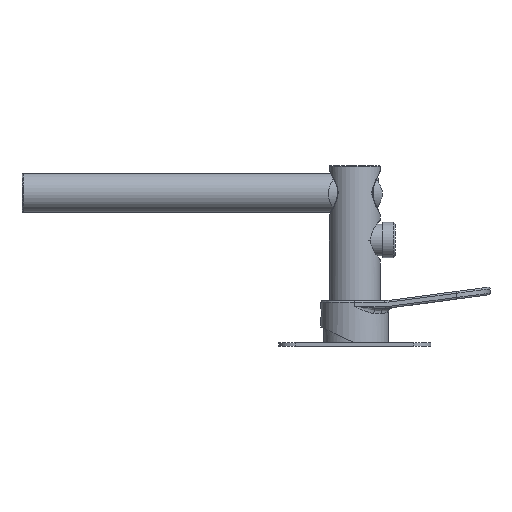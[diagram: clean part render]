
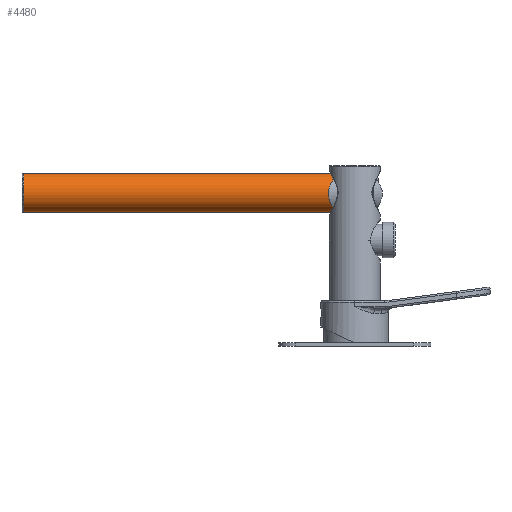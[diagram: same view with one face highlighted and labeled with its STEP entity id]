
A CAD part, left-side view. The second image highlights one B-rep face of the part: STEP entity #4480.
In plain terms, the highlighted cylindrical face has radius 11.5 mm (diameter 23 mm), a partial arc.
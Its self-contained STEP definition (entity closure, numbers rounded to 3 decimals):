
#54 = AXIS2_PLACEMENT_3D ( 'NONE', #17821, #7502, #2881 ) ;
#745 = CIRCLE ( 'NONE', #7632, 11.5 ) ;
#754 = DIRECTION ( 'NONE',  ( 0., -1., 0. ) ) ;
#1008 = DIRECTION ( 'NONE',  ( 0.058, 0., 0.998 ) ) ;
#1902 = CARTESIAN_POINT ( 'NONE',  ( 279.827, 194.884, 79.22 ) ) ;
#2301 = EDGE_CURVE ( 'NONE', #14059, #14332, #4232, .T. ) ;
#2365 = DIRECTION ( 'NONE',  ( 0., 1., 0. ) ) ;
#2602 = ORIENTED_EDGE ( 'NONE', *, *, #11184, .F. ) ;
#2685 = CYLINDRICAL_SURFACE ( 'NONE', #54, 11.5 ) ;
#2881 = DIRECTION ( 'NONE',  ( 0.058, 0., 0.998 ) ) ;
#3562 = CARTESIAN_POINT ( 'NONE',  ( 279.827, 240.884, 79.22 ) ) ;
#4066 = VERTEX_POINT ( 'NONE', #3562 ) ;
#4232 = LINE ( 'NONE', #8752, #7615 ) ;
#4480 = ADVANCED_FACE ( 'NONE', ( #6007 ), #2685, .T. ) ;
#4753 = LINE ( 'NONE', #1902, #10722 ) ;
#4825 = CARTESIAN_POINT ( 'NONE',  ( 281.173, 57.384, 102.18 ) ) ;
#6007 = FACE_OUTER_BOUND ( 'NONE', #16907, .T. ) ;
#7502 = DIRECTION ( 'NONE',  ( 0., 1., 0. ) ) ;
#7525 = VERTEX_POINT ( 'NONE', #12045 ) ;
#7615 = VECTOR ( 'NONE', #11881, 1000. ) ;
#7632 = AXIS2_PLACEMENT_3D ( 'NONE', #11434, #754, #14138 ) ;
#7768 = ORIENTED_EDGE ( 'NONE', *, *, #16098, .T. ) ;
#8427 = CARTESIAN_POINT ( 'NONE',  ( 281.173, 240.884, 102.18 ) ) ;
#8752 = CARTESIAN_POINT ( 'NONE',  ( 281.173, 194.884, 102.18 ) ) ;
#10722 = VECTOR ( 'NONE', #15183, 1000. ) ;
#11184 = EDGE_CURVE ( 'NONE', #7525, #4066, #4753, .T. ) ;
#11434 = CARTESIAN_POINT ( 'NONE',  ( 280.5, 240.884, 90.7 ) ) ;
#11881 = DIRECTION ( 'NONE',  ( 0., 1., 0. ) ) ;
#12045 = CARTESIAN_POINT ( 'NONE',  ( 279.827, 57.384, 79.22 ) ) ;
#12178 = CIRCLE ( 'NONE', #17710, 11.5 ) ;
#12201 = ORIENTED_EDGE ( 'NONE', *, *, #2301, .T. ) ;
#12915 = EDGE_CURVE ( 'NONE', #14332, #4066, #745, .T. ) ;
#14059 = VERTEX_POINT ( 'NONE', #4825 ) ;
#14138 = DIRECTION ( 'NONE',  ( 0.058, 0., 0.998 ) ) ;
#14322 = ORIENTED_EDGE ( 'NONE', *, *, #12915, .T. ) ;
#14332 = VERTEX_POINT ( 'NONE', #8427 ) ;
#15183 = DIRECTION ( 'NONE',  ( 0., 1., 0. ) ) ;
#15723 = CARTESIAN_POINT ( 'NONE',  ( 280.5, 57.384, 90.7 ) ) ;
#16098 = EDGE_CURVE ( 'NONE', #7525, #14059, #12178, .T. ) ;
#16907 = EDGE_LOOP ( 'NONE', ( #2602, #7768, #12201, #14322 ) ) ;
#17710 = AXIS2_PLACEMENT_3D ( 'NONE', #15723, #2365, #1008 ) ;
#17821 = CARTESIAN_POINT ( 'NONE',  ( 280.5, 194.884, 90.7 ) ) ;
